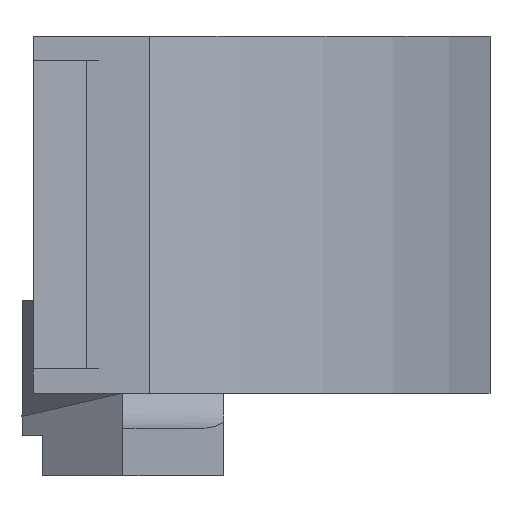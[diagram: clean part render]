
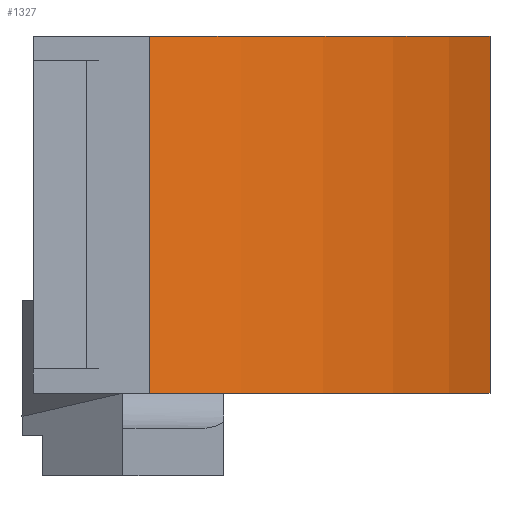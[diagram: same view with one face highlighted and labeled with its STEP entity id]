
A CAD part, front view. The second image highlights one B-rep face of the part: STEP entity #1327.
In plain terms, the highlighted cylindrical face has radius 39.624 mm (diameter 79.248 mm), a partial arc.
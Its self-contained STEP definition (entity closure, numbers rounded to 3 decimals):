
#87=CIRCLE('',#1431,39.624);
#92=CIRCLE('',#1441,39.624);
#109=CYLINDRICAL_SURFACE('',#1440,39.624);
#122=VERTEX_POINT('',#1810);
#123=VERTEX_POINT('',#1812);
#141=VERTEX_POINT('',#1855);
#142=VERTEX_POINT('',#1857);
#256=VECTOR('',#1476,1.);
#273=VECTOR('',#1508,1.);
#394=LINE('',#1811,#256);
#411=LINE('',#1856,#273);
#532=EDGE_CURVE('',#123,#122,#394,.T.);
#554=EDGE_CURVE('',#142,#141,#411,.F.);
#685=EDGE_CURVE('',#122,#142,#87,.F.);
#704=EDGE_CURVE('',#141,#123,#92,.T.);
#1023=ORIENTED_EDGE('',*,*,#532,.T.);
#1024=ORIENTED_EDGE('',*,*,#685,.T.);
#1025=ORIENTED_EDGE('',*,*,#554,.T.);
#1026=ORIENTED_EDGE('',*,*,#704,.T.);
#1182=EDGE_LOOP('',(#1023,#1024,#1025,#1026));
#1258=FACE_BOUND('',#1182,.T.);
#1327=ADVANCED_FACE('',(#1258),#109,.T.);
#1431=AXIS2_PLACEMENT_3D('',#2385,#1711,#1712);
#1440=AXIS2_PLACEMENT_3D('',#2418,#1740,#1741);
#1441=AXIS2_PLACEMENT_3D('',#2419,#1742,#1743);
#1476=DIRECTION('',(0.,0.,-1.));
#1508=DIRECTION('',(0.,0.,-1.));
#1711=DIRECTION('',(0.,0.,-1.));
#1712=DIRECTION('',(39.624,0.,0.));
#1740=DIRECTION('',(0.,0.,1.));
#1741=DIRECTION('',(39.624,0.,0.));
#1742=DIRECTION('',(0.,0.,-1.));
#1743=DIRECTION('',(39.624,0.,0.));
#1810=CARTESIAN_POINT('',(23.277,-27.801,-11.24));
#1811=CARTESIAN_POINT('',(23.277,-27.801,0.));
#1812=CARTESIAN_POINT('',(23.277,-27.801,11.24));
#1855=CARTESIAN_POINT('',(44.704,-4.057,11.24));
#1856=CARTESIAN_POINT('',(44.704,-4.057,-9.716));
#1857=CARTESIAN_POINT('',(44.704,-4.057,-11.24));
#2385=CARTESIAN_POINT('',(7.076,8.36,-11.24));
#2418=CARTESIAN_POINT('',(7.076,8.36,-9.716));
#2419=CARTESIAN_POINT('',(7.076,8.36,11.24));
